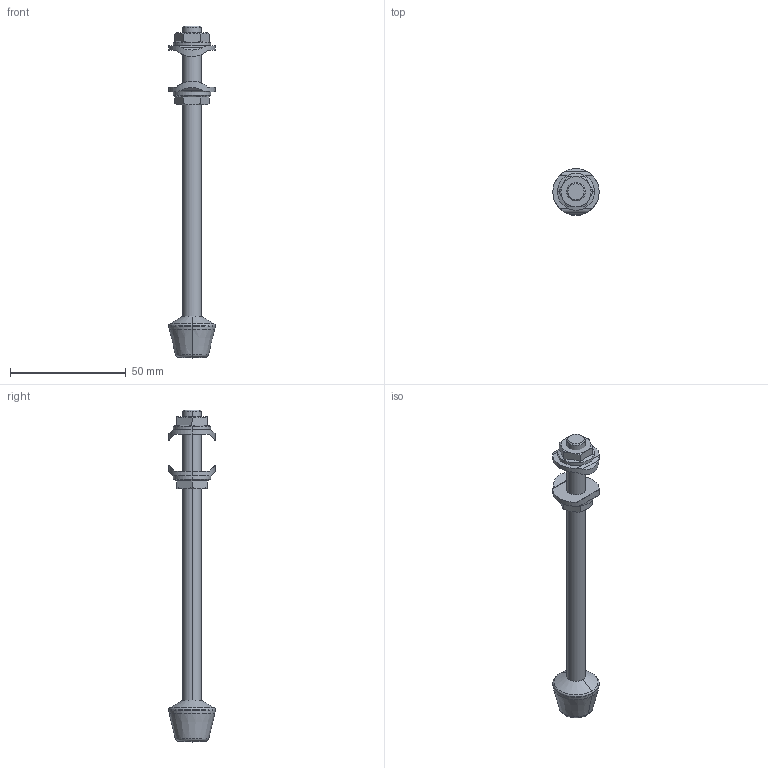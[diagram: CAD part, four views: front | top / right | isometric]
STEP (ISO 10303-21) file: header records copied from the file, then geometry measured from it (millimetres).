
FILE_DESCRIPTION(('STEP AP242'),'1');
FILE_NAME('911-3-c2.stp','2023-12-03T14:41:51',('TraceParts'),('TraceParts S.A.'),'Spatial InterOp 3D',' ',' ');
FILE_SCHEMA(('AP242_MANAGED_MODEL_BASED_3D_ENGINEERING_MIM_LF {1 0 10303 442 1 1 4}'));
Length unit declared in the file: millimetre
Products named in the file (1): 911-3-c2_1
Bounding box: 20 x 20 x 143.41 mm (x, y, z)
Volume: 12735.6 mm3; surface area: 7273.7 mm2
Topology: 5 solids, 5 shells, 91 faces, 210 edges, 127 vertices
Faces by surface type: plane 29, cylinder 28, sphere 18, cone 10, torus 4, bspline 2
Entity records: 2905 total; most frequent: CARTESIAN_POINT 607, DIRECTION 486, ORIENTED_EDGE 416, AXIS2_PLACEMENT_3D 214, EDGE_CURVE 208, VERTEX_POINT 127, CIRCLE 112, EDGE_LOOP 99
